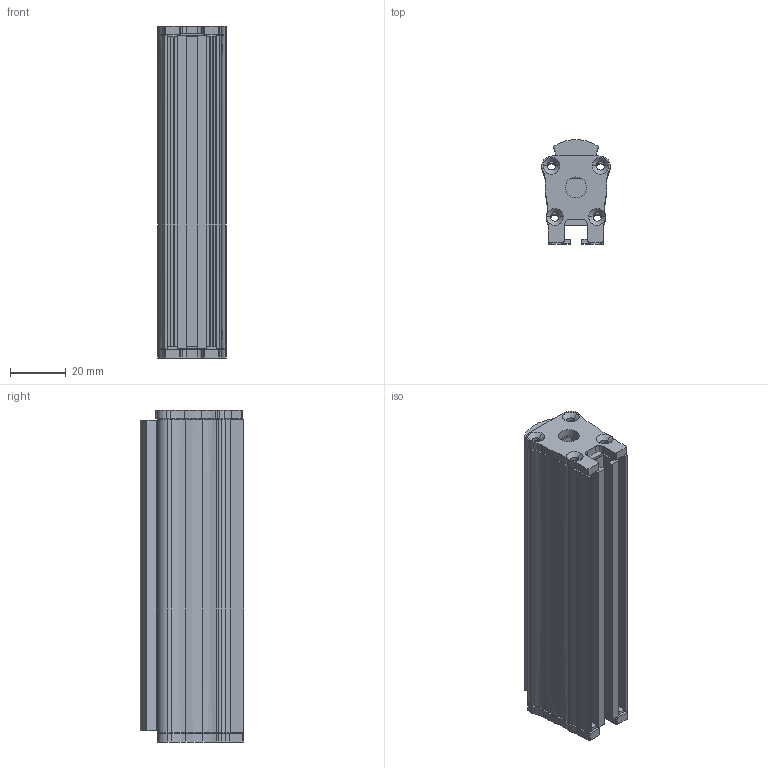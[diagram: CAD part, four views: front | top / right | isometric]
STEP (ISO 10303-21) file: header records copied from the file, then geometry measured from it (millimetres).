
FILE_DESCRIPTION(('STEP AP214'),'1');
FILE_NAME('lin+op 91.stp','2021-02-15T14:38:49',('Blanc'),('Phlox'),'Spatial InterOp 3D',' ',' ');
FILE_SCHEMA(('AUTOMOTIVE_DESIGN { 1 0 10303 214 1 1 1 1 }'));
Length unit declared in the file: inch
Products named in the file (1): Pièce_83634808
Bounding box: 24.54 x 37.28 x 119.06 mm (x, y, z)
Volume: 44764.7 mm3; surface area: 39164.6 mm2
Topology: 6 solids, 6 shells, 380 faces, 1090 edges, 718 vertices
Faces by surface type: cylinder 211, plane 103, bspline 36, cone 16, extrusion 14
Entity records: 25108 total; most frequent: CARTESIAN_POINT 7122, ORIENTED_EDGE 2180, DIRECTION 2086, STYLED_ITEM 1345, PRESENTATION_STYLE_ASSIGNMENT 1345, COLOUR_RGB 1345, EDGE_CURVE 1090, CURVE_STYLE 959
